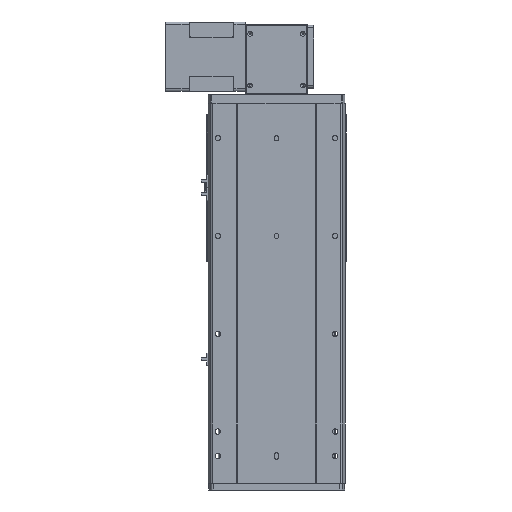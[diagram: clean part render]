
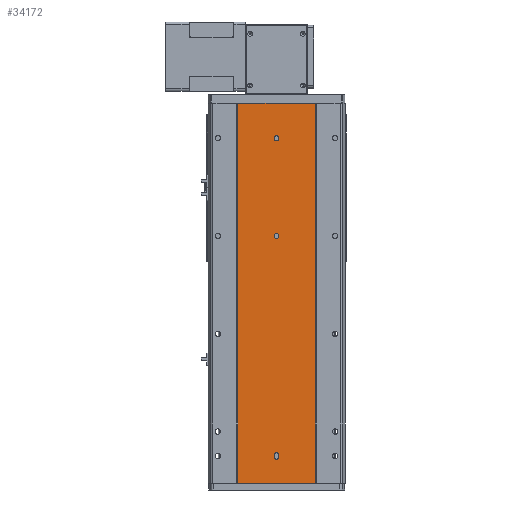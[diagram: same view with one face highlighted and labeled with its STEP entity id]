
A CAD part, front view. The second image highlights one B-rep face of the part: STEP entity #34172.
In plain terms, the highlighted planar face has unit normal (0, -1, 0).
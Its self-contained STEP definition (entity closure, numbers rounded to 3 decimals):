
#188 = AXIS2_PLACEMENT_3D ( 'NONE', #17735, #37210, #17312 ) ;
#1037 = CARTESIAN_POINT ( 'NONE',  ( 79., 1.5, 0. ) ) ;
#1446 = CARTESIAN_POINT ( 'NONE',  ( 0., 1.5, -271.5 ) ) ;
#1559 = DIRECTION ( 'NONE',  ( 1., 0., 0. ) ) ;
#1705 = DIRECTION ( 'NONE',  ( 0., -1., 0. ) ) ;
#2485 = CARTESIAN_POINT ( 'NONE',  ( 0., 1.5, -71.5 ) ) ;
#2767 = DIRECTION ( 'NONE',  ( 0., 1., 0. ) ) ;
#3815 = ORIENTED_EDGE ( 'NONE', *, *, #9427, .T. ) ;
#4011 = CARTESIAN_POINT ( 'NONE',  ( 0., 1.5, -728. ) ) ;
#4386 = FACE_OUTER_BOUND ( 'NONE', #40936, .T. ) ;
#4406 = EDGE_CURVE ( 'NONE', #40468, #34033, #25362, .T. ) ;
#5362 = CARTESIAN_POINT ( 'NONE',  ( 0., 1.5, -66.5 ) ) ;
#5554 = DIRECTION ( 'NONE',  ( 1., 0., 0. ) ) ;
#5754 = EDGE_CURVE ( 'NONE', #37115, #40468, #29283, .T. ) ;
#5801 = LINE ( 'NONE', #41249, #28064 ) ;
#6081 = DIRECTION ( 'NONE',  ( 0., 0., -1. ) ) ;
#6758 = DIRECTION ( 'NONE',  ( 1., 0., 0. ) ) ;
#6974 = EDGE_CURVE ( 'NONE', #27126, #18939, #11381, .T. ) ;
#7459 = DIRECTION ( 'NONE',  ( 1., 0., 0. ) ) ;
#7523 = VERTEX_POINT ( 'NONE', #32327 ) ;
#7802 = CARTESIAN_POINT ( 'NONE',  ( 79., 1.5, -777. ) ) ;
#7965 = DIRECTION ( 'NONE',  ( 0., 1., 0. ) ) ;
#8369 = CIRCLE ( 'NONE', #17762, 5. ) ;
#9311 = EDGE_LOOP ( 'NONE', ( #12353, #34046 ) ) ;
#9427 = EDGE_CURVE ( 'NONE', #21807, #37115, #28680, .T. ) ;
#9503 = CARTESIAN_POINT ( 'NONE',  ( -79., 1.5, -777. ) ) ;
#9526 = FACE_BOUND ( 'NONE', #9311, .T. ) ;
#9550 = VERTEX_POINT ( 'NONE', #41228 ) ;
#9614 = ORIENTED_EDGE ( 'NONE', *, *, #34519, .F. ) ;
#9747 = ORIENTED_EDGE ( 'NONE', *, *, #38425, .T. ) ;
#9912 = DIRECTION ( 'NONE',  ( 0., 1., 0. ) ) ;
#10055 = CARTESIAN_POINT ( 'NONE',  ( 0., 1.5, -71.5 ) ) ;
#11381 = LINE ( 'NONE', #30853, #29546 ) ;
#11401 = DIRECTION ( 'NONE',  ( 1., 0., 0. ) ) ;
#11677 = VERTEX_POINT ( 'NONE', #17125 ) ;
#11787 = ORIENTED_EDGE ( 'NONE', *, *, #5754, .T. ) ;
#12091 = CARTESIAN_POINT ( 'NONE',  ( -5., 1.5, -720. ) ) ;
#12353 = ORIENTED_EDGE ( 'NONE', *, *, #18543, .T. ) ;
#13124 = DIRECTION ( 'NONE',  ( 0., 0., 1. ) ) ;
#13185 = ORIENTED_EDGE ( 'NONE', *, *, #16835, .F. ) ;
#14003 = DIRECTION ( 'NONE',  ( 1., 0., 0. ) ) ;
#14157 = DIRECTION ( 'NONE',  ( 0., 1., 0. ) ) ;
#15354 = AXIS2_PLACEMENT_3D ( 'NONE', #10055, #16719, #39942 ) ;
#15682 = DIRECTION ( 'NONE',  ( 0., 1., 0. ) ) ;
#16490 = CARTESIAN_POINT ( 'NONE',  ( 5., 1.5, -777. ) ) ;
#16719 = DIRECTION ( 'NONE',  ( 0., 1., 0. ) ) ;
#16835 = EDGE_CURVE ( 'NONE', #27126, #9550, #27434, .T. ) ;
#17004 = CIRCLE ( 'NONE', #30596, 5. ) ;
#17125 = CARTESIAN_POINT ( 'NONE',  ( 0., 1.5, -266.5 ) ) ;
#17304 = FACE_BOUND ( 'NONE', #37441, .T. ) ;
#17312 = DIRECTION ( 'NONE',  ( 1., 0., 0. ) ) ;
#17735 = CARTESIAN_POINT ( 'NONE',  ( 0., 1.5, -720. ) ) ;
#17762 = AXIS2_PLACEMENT_3D ( 'NONE', #26451, #9912, #6758 ) ;
#18543 = EDGE_CURVE ( 'NONE', #27078, #11677, #23518, .T. ) ;
#18939 = VERTEX_POINT ( 'NONE', #7802 ) ;
#19304 = EDGE_CURVE ( 'NONE', #35769, #21807, #8369, .T. ) ;
#19808 = ORIENTED_EDGE ( 'NONE', *, *, #6974, .T. ) ;
#20206 = CARTESIAN_POINT ( 'NONE',  ( 5., 1.5, -723. ) ) ;
#20759 = EDGE_CURVE ( 'NONE', #34033, #35769, #17004, .T. ) ;
#21797 = PLANE ( 'NONE',  #22452 ) ;
#21807 = VERTEX_POINT ( 'NONE', #23202 ) ;
#22449 = EDGE_CURVE ( 'NONE', #11677, #27078, #38489, .T. ) ;
#22452 = AXIS2_PLACEMENT_3D ( 'NONE', #37923, #1705, #1559 ) ;
#23202 = CARTESIAN_POINT ( 'NONE',  ( -5., 1.5, -723. ) ) ;
#23258 = ORIENTED_EDGE ( 'NONE', *, *, #24000, .T. ) ;
#23274 = VECTOR ( 'NONE', #6081, 1000. ) ;
#23518 = CIRCLE ( 'NONE', #26614, 5. ) ;
#24000 = EDGE_CURVE ( 'NONE', #25743, #7523, #33149, .T. ) ;
#25362 = LINE ( 'NONE', #16490, #23274 ) ;
#25472 = AXIS2_PLACEMENT_3D ( 'NONE', #2485, #2767, #42324 ) ;
#25743 = VERTEX_POINT ( 'NONE', #5362 ) ;
#26451 = CARTESIAN_POINT ( 'NONE',  ( 0., 1.5, -723. ) ) ;
#26614 = AXIS2_PLACEMENT_3D ( 'NONE', #1446, #7965, #11401 ) ;
#27015 = ORIENTED_EDGE ( 'NONE', *, *, #20759, .T. ) ;
#27055 = AXIS2_PLACEMENT_3D ( 'NONE', #28873, #15682, #5554 ) ;
#27078 = VERTEX_POINT ( 'NONE', #30374 ) ;
#27126 = VERTEX_POINT ( 'NONE', #33845 ) ;
#27134 = VECTOR ( 'NONE', #40666, 1000. ) ;
#27434 = LINE ( 'NONE', #9503, #37353 ) ;
#28064 = VECTOR ( 'NONE', #34733, 1000. ) ;
#28397 = VERTEX_POINT ( 'NONE', #1037 ) ;
#28680 = LINE ( 'NONE', #30796, #27134 ) ;
#28690 = ORIENTED_EDGE ( 'NONE', *, *, #30076, .T. ) ;
#28873 = CARTESIAN_POINT ( 'NONE',  ( 0., 1.5, -271.5 ) ) ;
#29283 = CIRCLE ( 'NONE', #188, 5. ) ;
#29546 = VECTOR ( 'NONE', #34189, 1000. ) ;
#30076 = EDGE_CURVE ( 'NONE', #7523, #25743, #41809, .T. ) ;
#30374 = CARTESIAN_POINT ( 'NONE',  ( 0., 1.5, -276.5 ) ) ;
#30596 = AXIS2_PLACEMENT_3D ( 'NONE', #33721, #14157, #14003 ) ;
#30796 = CARTESIAN_POINT ( 'NONE',  ( -5., 1.5, -777. ) ) ;
#30853 = CARTESIAN_POINT ( 'NONE',  ( -79., 1.5, -777. ) ) ;
#32327 = CARTESIAN_POINT ( 'NONE',  ( 0., 1.5, -76.5 ) ) ;
#32386 = EDGE_LOOP ( 'NONE', ( #3815, #11787, #33317, #27015, #42635 ) ) ;
#33149 = CIRCLE ( 'NONE', #25472, 5. ) ;
#33317 = ORIENTED_EDGE ( 'NONE', *, *, #4406, .T. ) ;
#33721 = CARTESIAN_POINT ( 'NONE',  ( 0., 1.5, -723. ) ) ;
#33845 = CARTESIAN_POINT ( 'NONE',  ( -79., 1.5, -777. ) ) ;
#34033 = VERTEX_POINT ( 'NONE', #20206 ) ;
#34046 = ORIENTED_EDGE ( 'NONE', *, *, #22449, .T. ) ;
#34172 = ADVANCED_FACE ( 'NONE', ( #17304, #4386, #9526, #38624 ), #21797, .T. ) ;
#34189 = DIRECTION ( 'NONE',  ( 1., 0., 0. ) ) ;
#34519 = EDGE_CURVE ( 'NONE', #9550, #28397, #38537, .T. ) ;
#34733 = DIRECTION ( 'NONE',  ( 0., 0., 1. ) ) ;
#35769 = VERTEX_POINT ( 'NONE', #4011 ) ;
#35979 = VECTOR ( 'NONE', #7459, 1000. ) ;
#36888 = CARTESIAN_POINT ( 'NONE',  ( -79., 1.5, 0. ) ) ;
#37115 = VERTEX_POINT ( 'NONE', #12091 ) ;
#37210 = DIRECTION ( 'NONE',  ( 0., 1., 0. ) ) ;
#37353 = VECTOR ( 'NONE', #13124, 1000. ) ;
#37441 = EDGE_LOOP ( 'NONE', ( #28690, #23258 ) ) ;
#37923 = CARTESIAN_POINT ( 'NONE',  ( -79., 1.5, -777. ) ) ;
#38425 = EDGE_CURVE ( 'NONE', #18939, #28397, #5801, .T. ) ;
#38489 = CIRCLE ( 'NONE', #27055, 5. ) ;
#38537 = LINE ( 'NONE', #36888, #35979 ) ;
#38624 = FACE_BOUND ( 'NONE', #32386, .T. ) ;
#39942 = DIRECTION ( 'NONE',  ( 1., 0., 0. ) ) ;
#40468 = VERTEX_POINT ( 'NONE', #42858 ) ;
#40666 = DIRECTION ( 'NONE',  ( 0., 0., 1. ) ) ;
#40936 = EDGE_LOOP ( 'NONE', ( #9614, #13185, #19808, #9747 ) ) ;
#41228 = CARTESIAN_POINT ( 'NONE',  ( -79., 1.5, 0. ) ) ;
#41249 = CARTESIAN_POINT ( 'NONE',  ( 79., 1.5, -777. ) ) ;
#41809 = CIRCLE ( 'NONE', #15354, 5. ) ;
#42324 = DIRECTION ( 'NONE',  ( 1., 0., 0. ) ) ;
#42635 = ORIENTED_EDGE ( 'NONE', *, *, #19304, .T. ) ;
#42858 = CARTESIAN_POINT ( 'NONE',  ( 5., 1.5, -720. ) ) ;
